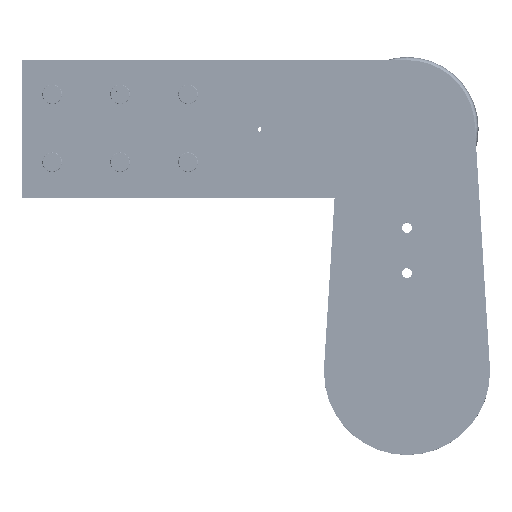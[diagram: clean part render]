
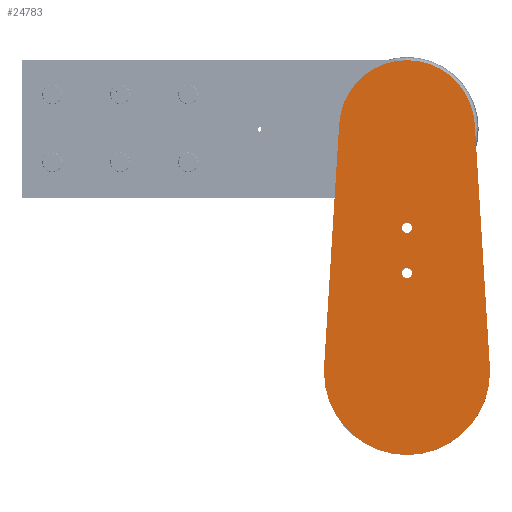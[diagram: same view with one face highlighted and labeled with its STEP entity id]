
A CAD part, top view. The second image highlights one B-rep face of the part: STEP entity #24783.
In plain terms, the highlighted planar face has unit normal (0, 0, 1) as drawn and (0, 0, -1) by its records, which use the part's own axes.
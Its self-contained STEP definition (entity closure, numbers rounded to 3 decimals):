
#24783 = ADVANCED_FACE ( 'NONE', ( #81801, #81797, #81803 ), #81804, .F. ) ;
#25920 = EDGE_CURVE ( 'NONE', #43641, #43642, #83358, .T. ) ;
#25924 = EDGE_CURVE ( 'NONE', #43645, #43646, #83362, .T. ) ;
#25937 = EDGE_CURVE ( 'NONE', #43661, #43662, #83385, .T. ) ;
#25941 = EDGE_CURVE ( 'NONE', #43664, #43661, #83390, .T. ) ;
#25950 = EDGE_CURVE ( 'NONE', #43666, #43665, #83408, .T. ) ;
#25954 = EDGE_CURVE ( 'NONE', #43665, #43667, #32487, .T. ) ;
#25958 = EDGE_CURVE ( 'NONE', #43667, #43664, #83419, .T. ) ;
#25959 = EDGE_CURVE ( 'NONE', #43662, #43666, #32505, .T. ) ;
#25961 = EDGE_CURVE ( 'NONE', #43642, #43641, #83424, .T. ) ;
#25962 = EDGE_CURVE ( 'NONE', #43646, #43645, #83425, .T. ) ;
#32331 = CARTESIAN_POINT ( 'NONE',  ( 0., 95.5, 0. ) ) ;
#32332 = DIRECTION ( 'NONE',  ( 0., 0., -1. ) ) ;
#32333 = DIRECTION ( 'NONE',  ( 1., 0., 0. ) ) ;
#32343 = CARTESIAN_POINT ( 'NONE',  ( 0., 65.5, 0. ) ) ;
#32344 = DIRECTION ( 'NONE',  ( 0., 0., -1. ) ) ;
#32345 = DIRECTION ( 'NONE',  ( 1., 0., 0. ) ) ;
#32383 = CARTESIAN_POINT ( 'NONE',  ( 0., 0., 0. ) ) ;
#32385 = DIRECTION ( 'NONE',  ( 0., 0., 1. ) ) ;
#32387 = DIRECTION ( 'NONE',  ( 1., 0., 0. ) ) ;
#32406 = CARTESIAN_POINT ( 'NONE',  ( 0., 0., 0. ) ) ;
#32407 = DIRECTION ( 'NONE',  ( 0., 0., 1. ) ) ;
#32409 = DIRECTION ( 'NONE',  ( 1., 0., 0. ) ) ;
#32467 = CARTESIAN_POINT ( 'NONE',  ( 0., 161.5, 0. ) ) ;
#32469 = DIRECTION ( 'NONE',  ( 0., 0., 1. ) ) ;
#32471 = DIRECTION ( 'NONE',  ( 1., 0., 0. ) ) ;
#32487 = LINE ( 'NONE', #32489, #83415 ) ;
#32489 = CARTESIAN_POINT ( 'NONE',  ( -44.914, 164.286, 0. ) ) ;
#32490 = DIRECTION ( 'NONE',  ( -0.062, -0.998, 0. ) ) ;
#32505 = LINE ( 'NONE', #32508, #83421 ) ;
#32508 = CARTESIAN_POINT ( 'NONE',  ( 44.914, 164.286, 0. ) ) ;
#32518 = CARTESIAN_POINT ( 'NONE',  ( 0., 0., 0. ) ) ;
#32520 = DIRECTION ( 'NONE',  ( 0., 0., 1. ) ) ;
#32522 = DIRECTION ( 'NONE',  ( 1., 0., 0. ) ) ;
#32525 = DIRECTION ( 'NONE',  ( -0.062, 0.998, 0. ) ) ;
#32538 = CARTESIAN_POINT ( 'NONE',  ( 0., 95.5, 0. ) ) ;
#32539 = DIRECTION ( 'NONE',  ( 0., 0., -1. ) ) ;
#32541 = DIRECTION ( 'NONE',  ( 1., 0., 0. ) ) ;
#32544 = CARTESIAN_POINT ( 'NONE',  ( 0., 65.5, 0. ) ) ;
#32546 = DIRECTION ( 'NONE',  ( 0., 0., -1. ) ) ;
#32548 = DIRECTION ( 'NONE',  ( 1., 0., 0. ) ) ;
#43641 = VERTEX_POINT ( 'NONE', #64047 ) ;
#43642 = VERTEX_POINT ( 'NONE', #64048 ) ;
#43645 = VERTEX_POINT ( 'NONE', #64051 ) ;
#43646 = VERTEX_POINT ( 'NONE', #64052 ) ;
#43661 = VERTEX_POINT ( 'NONE', #64067 ) ;
#43662 = VERTEX_POINT ( 'NONE', #64068 ) ;
#43664 = VERTEX_POINT ( 'NONE', #64070 ) ;
#43665 = VERTEX_POINT ( 'NONE', #64071 ) ;
#43666 = VERTEX_POINT ( 'NONE', #64072 ) ;
#43667 = VERTEX_POINT ( 'NONE', #64073 ) ;
#52921 = EDGE_LOOP ( 'NONE', ( #62501, #62502 ) ) ;
#52926 = EDGE_LOOP ( 'NONE', ( #62505, #62506, #62507, #62508, #62509, #62510 ) ) ;
#52927 = EDGE_LOOP ( 'NONE', ( #62503, #62504 ) ) ;
#62501 = ORIENTED_EDGE ( 'NONE', *, *, #25920, .F. ) ;
#62502 = ORIENTED_EDGE ( 'NONE', *, *, #25961, .F. ) ;
#62503 = ORIENTED_EDGE ( 'NONE', *, *, #25924, .F. ) ;
#62504 = ORIENTED_EDGE ( 'NONE', *, *, #25962, .F. ) ;
#62505 = ORIENTED_EDGE ( 'NONE', *, *, #25950, .F. ) ;
#62506 = ORIENTED_EDGE ( 'NONE', *, *, #25959, .F. ) ;
#62507 = ORIENTED_EDGE ( 'NONE', *, *, #25937, .F. ) ;
#62508 = ORIENTED_EDGE ( 'NONE', *, *, #25941, .F. ) ;
#62509 = ORIENTED_EDGE ( 'NONE', *, *, #25958, .F. ) ;
#62510 = ORIENTED_EDGE ( 'NONE', *, *, #25954, .F. ) ;
#64047 = CARTESIAN_POINT ( 'NONE',  ( 3.5, 95.5, 0. ) ) ;
#64048 = CARTESIAN_POINT ( 'NONE',  ( -3.5, 95.5, 0. ) ) ;
#64051 = CARTESIAN_POINT ( 'NONE',  ( 3.5, 65.5, 0. ) ) ;
#64052 = CARTESIAN_POINT ( 'NONE',  ( -3.5, 65.5, 0. ) ) ;
#64067 = CARTESIAN_POINT ( 'NONE',  ( 55., 0., 0. ) ) ;
#64068 = CARTESIAN_POINT ( 'NONE',  ( 54.894, 3.406, 0. ) ) ;
#64070 = CARTESIAN_POINT ( 'NONE',  ( -55., 0., 0. ) ) ;
#64071 = CARTESIAN_POINT ( 'NONE',  ( -44.914, 164.286, 0. ) ) ;
#64072 = CARTESIAN_POINT ( 'NONE',  ( 44.914, 164.286, 0. ) ) ;
#64073 = CARTESIAN_POINT ( 'NONE',  ( -54.894, 3.406, 0. ) ) ;
#65734 = AXIS2_PLACEMENT_3D ( 'NONE', #81800, #81796, #81806 ) ;
#81796 = DIRECTION ( 'NONE',  ( 0., 0., 1. ) ) ;
#81797 = FACE_BOUND ( 'NONE', #52927, .T. ) ;
#81800 = CARTESIAN_POINT ( 'NONE',  ( 0., 161.5, 0. ) ) ;
#81801 = FACE_BOUND ( 'NONE', #52921, .T. ) ;
#81803 = FACE_OUTER_BOUND ( 'NONE', #52926, .T. ) ;
#81804 = PLANE ( 'NONE',  #65734 ) ;
#81806 = DIRECTION ( 'NONE',  ( 1., 0., 0. ) ) ;
#83358 = CIRCLE ( 'NONE', #83363, 3.5 ) ;
#83362 = CIRCLE ( 'NONE', #83369, 3.5 ) ;
#83363 = AXIS2_PLACEMENT_3D ( 'NONE', #32331, #32332, #32333 ) ;
#83369 = AXIS2_PLACEMENT_3D ( 'NONE', #32343, #32344, #32345 ) ;
#83385 = CIRCLE ( 'NONE', #83389, 55. ) ;
#83389 = AXIS2_PLACEMENT_3D ( 'NONE', #32383, #32385, #32387 ) ;
#83390 = CIRCLE ( 'NONE', #83395, 55. ) ;
#83395 = AXIS2_PLACEMENT_3D ( 'NONE', #32406, #32407, #32409 ) ;
#83408 = CIRCLE ( 'NONE', #83411, 45. ) ;
#83411 = AXIS2_PLACEMENT_3D ( 'NONE', #32467, #32469, #32471 ) ;
#83415 = VECTOR ( 'NONE', #32490, 1000. ) ;
#83419 = CIRCLE ( 'NONE', #83422, 55. ) ;
#83421 = VECTOR ( 'NONE', #32525, 1000. ) ;
#83422 = AXIS2_PLACEMENT_3D ( 'NONE', #32518, #32520, #32522 ) ;
#83424 = CIRCLE ( 'NONE', #83426, 3.5 ) ;
#83425 = CIRCLE ( 'NONE', #83428, 3.5 ) ;
#83426 = AXIS2_PLACEMENT_3D ( 'NONE', #32538, #32539, #32541 ) ;
#83428 = AXIS2_PLACEMENT_3D ( 'NONE', #32544, #32546, #32548 ) ;
